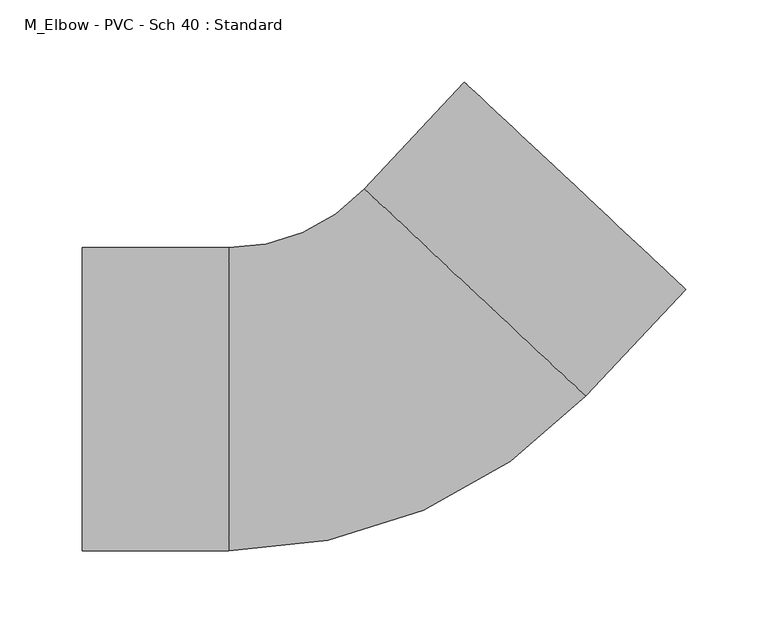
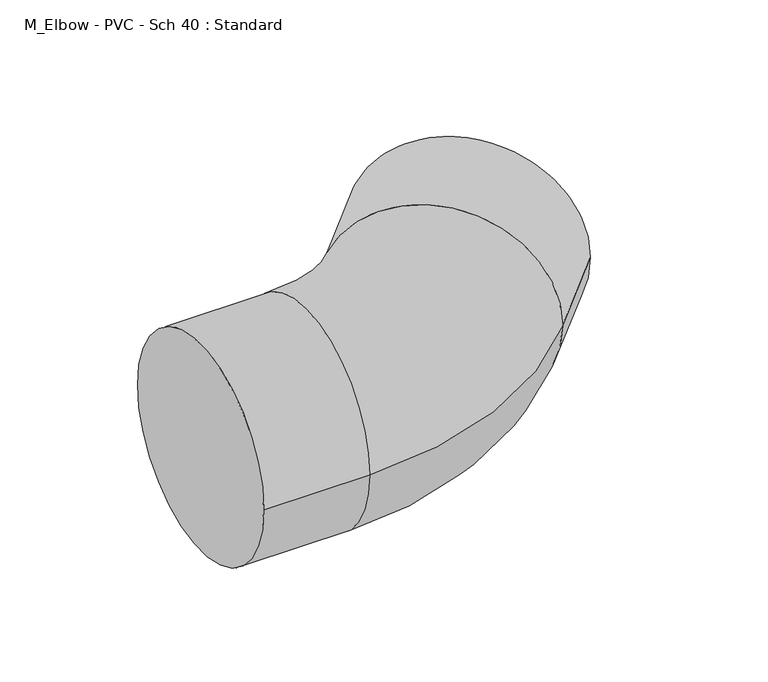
"""IFC4 building model written with IfcOpenShell, lengths in millimetres: pipe fitting geometry, M_Elbow - PVC - Sch 40 : Standard."""

from ifc_helpers import new_model, si_unit, point, frame, origin, place, context, project, spatial, circle_curve, ellipse_curve, trimmed, source, transform, mapped, element, save
from ifc_brep_helpers import plane_surface, cylinder_surface, revolved_surface, advanced_brep


def m_elbow_pvc_sch_40_standard_e77ed494(model_context):
    return source(origin(), model_context, "Body", "AdvancedBrep", [
        advanced_brep(
        [(-177.8, -92.075, 0.0), (-177.8, 92.075, 0.0), (-88.9, -92.075, 0.0), (-88.9, 92.075, 0.0), (-6.4070482, 127.8278739, 0.0), (127.9739502, 1.9192969, 0.0), (188.7574012, 66.7928823, 0.0), (54.3764028, 192.7014594, 0.0)],
        [
            (0, 1, circle_curve(frame((-177.8, 0.0, 0.0), z_axis=(-1.0, 0.0, 0.0), x_axis=(0.0, 1.0, 0.0)), 92.075)),
            (1, 0, circle_curve(frame((-177.8, 0.0, 0.0), z_axis=(-1.0, 0.0, 0.0), x_axis=(0.0, 1.0, 0.0)), 92.075)),
            (0, 2),
            (2, 3, circle_curve(frame((-88.9, 0.0, 0.0), z_axis=(-1.0, 0.0, 0.0), x_axis=(0.0, 1.0, 0.0)), 92.075)),
            (3, 1),
            (3, 2, circle_curve(frame((-88.9, 0.0, 0.0), z_axis=(-1.0, 0.0, 0.0), x_axis=(0.0, 1.0, 0.0)), 92.075)),
            (4, 3, circle_curve(frame((-88.9, 205.1198297, 0.0), z_axis=(0.0, 0.0, -1.0), x_axis=(0.0, -1.0, 0.0)), 113.0448297)),
            (2, 5, circle_curve(frame((-88.9, 205.1198297, 0.0), z_axis=(0.0, 0.0, 1.0), x_axis=(0.0, -1.0, 0.0)), 297.1948297)),
            (5, 4, circle_curve(frame((60.783451, 64.8735854, 0.0), z_axis=(-0.6837283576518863, -0.7297366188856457, 0.0), x_axis=(-0.7297366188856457, 0.6837283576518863, 0.0)), 92.075)),
            (4, 5, circle_curve(frame((60.783451, 64.8735854, 0.0), z_axis=(-0.6837283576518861, -0.729736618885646, 0.0), x_axis=(-0.729736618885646, 0.6837283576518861, 0.0)), 92.075)),
            (6, 7, circle_curve(frame((121.566902, 129.7471708, 0.0), z_axis=(0.6837283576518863, 0.7297366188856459, 0.0), x_axis=(-0.7297366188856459, 0.6837283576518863, 0.0)), 92.075)),
            (7, 6, circle_curve(frame((121.566902, 129.7471708, 0.0), z_axis=(0.6837283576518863, 0.7297366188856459, 0.0), x_axis=(-0.7297366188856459, 0.6837283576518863, 0.0)), 92.075)),
            (5, 6),
            (7, 4),
        ],
        [
            plane_surface(frame((-177.8, 0.0, 0.0), z_axis=(-1.0, 0.0, 0.0), x_axis=(0.0, 0.0, 1.0))),
            cylinder_surface(frame((-177.8, 0.0, 0.0), z_axis=(-1.0, 0.0, 0.0), x_axis=(0.0, 1.0, 0.0)), 92.075),
            revolved_surface(trimmed(ellipse_curve(frame((-88.9, 0.0, 0.0), z_axis=(-1.0, 0.0, 0.0), x_axis=(0.0, 1.0, 0.0)), 92.075, 92.075), [point((-88.9, -92.075, 0.0))], [point((-88.9, 92.075, 0.0))], True, "CARTESIAN"), (-88.9, 205.1198297, 0.0), (0.0, 0.0, 1.0)),
            revolved_surface(trimmed(ellipse_curve(frame((-88.9, 0.0, 0.0), z_axis=(-1.0, 0.0, 0.0), x_axis=(0.0, 1.0, 0.0)), 92.075, 92.075), [point((-88.9, 92.075, 0.0))], [point((-88.9, -92.075, 0.0))], True, "CARTESIAN"), (-88.9, 205.1198297, 0.0), (0.0, 0.0, 1.0)),
            plane_surface(frame((121.566902, 129.7471708, 0.0), z_axis=(0.6837283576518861, 0.729736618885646, 0.0), x_axis=(0.0, 0.0, 1.0))),
            cylinder_surface(frame((60.783451, 64.8735854, 0.0), z_axis=(-0.6837283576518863, -0.7297366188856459, 0.0), x_axis=(-0.7297366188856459, 0.6837283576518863, 0.0)), 92.075),
        ],
        [
            (0, [[1, 2]]),
            (1, [[-1, 3, 4, 5]]),
            (1, [[-2, -5, 6, -3]]),
            (2, [[7, -4, 8, 9]]),
            (3, [[-8, -6, -7, 10]]),
            (4, [[11, 12]]),
            (5, [[-9, 13, -12, 14]]),
            (5, [[-10, -14, -11, -13]]),
        ],
    ),
    ])


if __name__ == "__main__":
    model = new_model("IFC4")
    model_context = context("Model", 3, world=origin())
    ifc_project = project(units=[si_unit("LENGTHUNIT", "METRE", prefix="MILLI")], contexts=[model_context])
    site = spatial("IfcSite", under=ifc_project)
    building = spatial("IfcBuilding", under=site)
    placement = place(None, origin())
    m_elbow_pvc_sch_40_standard_shape = m_elbow_pvc_sch_40_standard_e77ed494(model_context)
    element("IfcPipeFitting", 1, ObjectType="M_Elbow - PVC - Sch 40 : Standard", at=placement, inside=building, context=model_context, shape_type="MappedRepresentation", body=[
        mapped(m_elbow_pvc_sch_40_standard_shape, transform((0.0, 0.0, 0.0), x_axis=(1.0, 0.0, 0.0), y_axis=(0.0, 1.0, 0.0), z_axis=(0.0, 0.0, 1.0))),
    ])
    save(model, "model.ifc")
